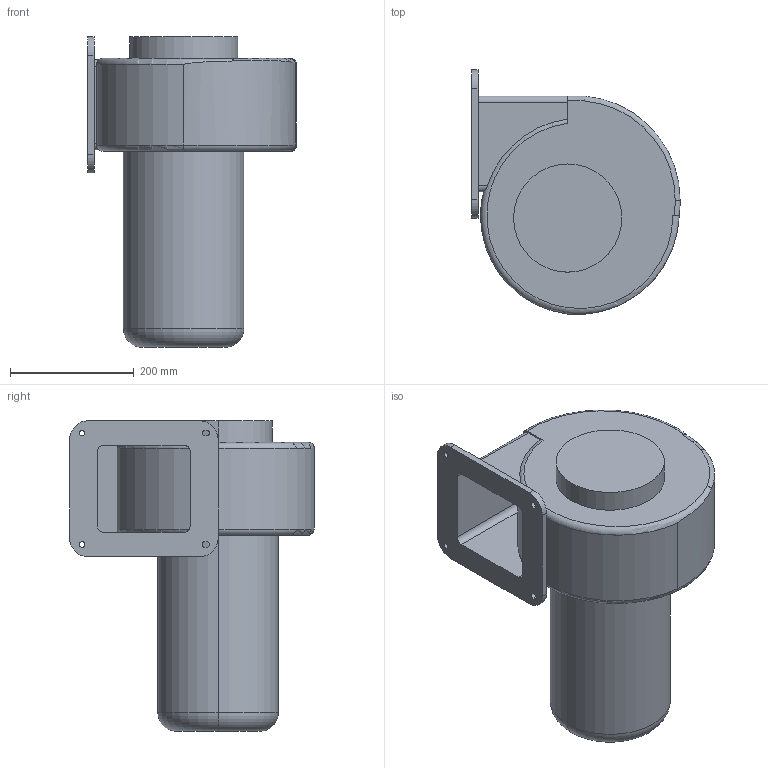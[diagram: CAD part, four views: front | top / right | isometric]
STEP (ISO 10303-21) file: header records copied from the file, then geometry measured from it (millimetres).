
FILE_DESCRIPTION (( 'STEP AP203' ), '1' );
FILE_NAME ('1500.STEP', '2019-05-09T03:30:13', ( 'User' ), ( 'www.dadighost.com' ), 'SwSTEP 2.0', 'SolidWorks 2014', '' );
FILE_SCHEMA (( 'CONFIG_CONTROL_DESIGN' ));
Length unit declared in the file: millimetre
Products named in the file (1): 1500
Bounding box: 336.89 x 395.53 x 502 mm (x, y, z)
Volume: 23512191.4 mm3; surface area: 688888.6 mm2
Topology: 1 solids, 1 shells, 69 faces, 181 edges, 118 vertices
Faces by surface type: cylinder 30, plane 27, torus 12
Entity records: 2567 total; most frequent: CARTESIAN_POINT 733, DIRECTION 379, ORIENTED_EDGE 362, EDGE_CURVE 181, AXIS2_PLACEMENT_3D 147, VERTEX_POINT 118, LINE 85, VECTOR 85
